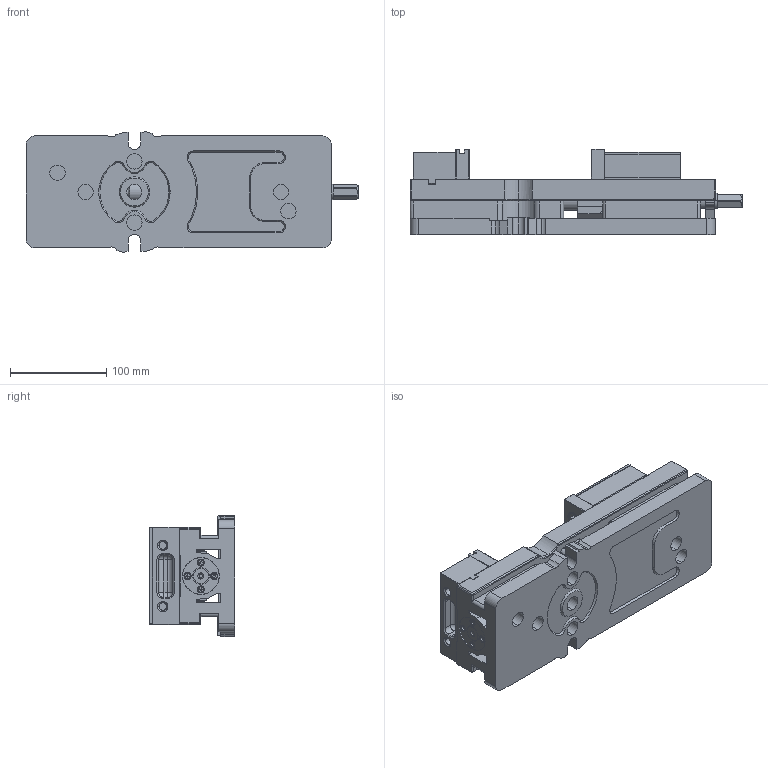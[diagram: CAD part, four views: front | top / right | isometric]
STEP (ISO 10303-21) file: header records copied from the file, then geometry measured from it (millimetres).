
FILE_DESCRIPTION(('STEP AP214'),'1');
FILE_NAME('DX4 WEB_GTM.STP','2020-06-09T15:41:29',(' '),(' '),'Spatial InterOp 3D',' ',' ');
FILE_SCHEMA(('AUTOMOTIVE_DESIGN { 1 0 10303 214 1 1 1 1 }'));
Length unit declared in the file: metre
Products named in the file (22): DX4 WEB_GTM; Component1; Component2; Component3; Component4; Component5; Component6; Component7; Component8; Component9; Component10; Component11; Component12; Component13; Component14; Component15; Component16; Component17; Component18; Component19; Component20
Assembly tree (21 placements, depth 3):
  DX4 WEB_GTM
    DX4 WEB_GTM
      Component1
      Component2
      Component3
      Component4
      Component5
      Component6
      Component7
      Component8
      Component9
      Component10
      Component11
      Component12
      Component13
      Component14
      Component15
      Component16
      Component17
      Component18
      Component19
      Component20
Bounding box: 345.03 x 88.52 x 126.04 mm (x, y, z)
Volume: 1728463.8 mm3; surface area: 323286.1 mm2
Topology: 20 solids, 20 shells, 1146 faces, 2760 edges, 1678 vertices
Faces by surface type: plane 575, cylinder 316, cone 207, torus 26, sphere 14, bspline 8
Entity records: 34322 total; most frequent: CARTESIAN_POINT 6336, DIRECTION 5940, ORIENTED_EDGE 5444, EDGE_CURVE 2722, AXIS2_PLACEMENT_3D 2116, LINE 1708, VECTOR 1708, VERTEX_POINT 1678
